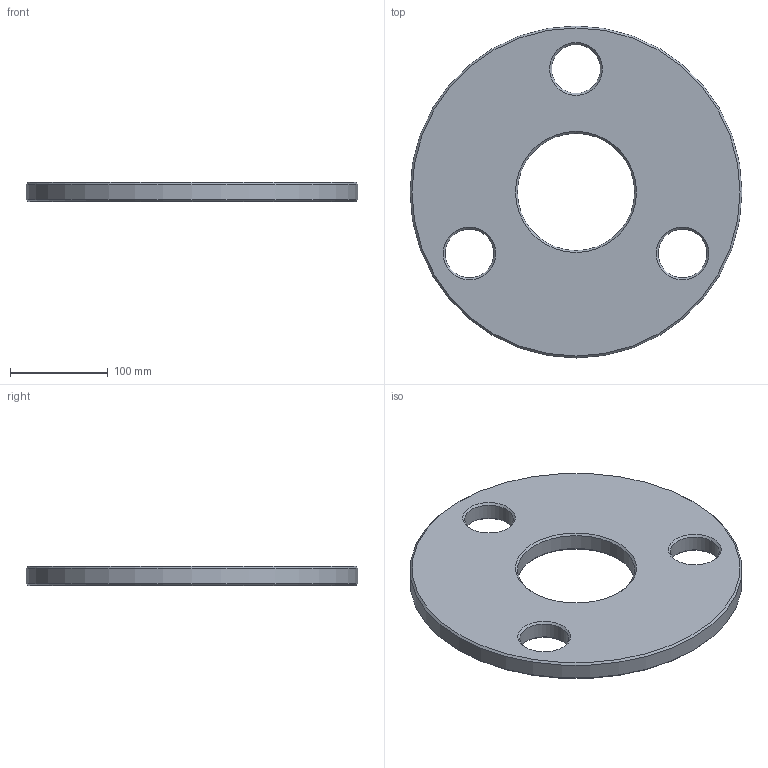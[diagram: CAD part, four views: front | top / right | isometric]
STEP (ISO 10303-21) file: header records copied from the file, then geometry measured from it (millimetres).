
FILE_DESCRIPTION(/* description */ (''),/* implementation_level */ '2;1');
FILE_NAME(/* name */ 'C:\Users\jbart\OneDrive\Plocha\Nová složka\3D modely - stp\Unášeč B-1.stp',/* time_stamp */ '2025-05-15T16:52:08+02:00',/* author */ ('jbart'),/* organization */ (''),/* preprocessor_version */ 'ST-DEVELOPER v18.1',/* originating_system */ 'Autodesk Inventor 2022',/* authorisation */ '');
FILE_SCHEMA (('AUTOMOTIVE_DESIGN { 1 0 10303 214 3 1 1 }'));
Length unit declared in the file: millimetre
Products named in the file (1): Unášeč B-1
Bounding box: 340 x 340 x 20 mm (x, y, z)
Volume: 1464120.4 mm3; surface area: 181051.9 mm2
Topology: 1 solids, 1 shells, 17 faces, 37 edges, 22 vertices
Faces by surface type: cone 10, cylinder 5, plane 2
Full cylindrical faces by diameter (mm): 50 x3, 120 x1, 340 x1
Entity records: 524 total; most frequent: DIRECTION 95, CARTESIAN_POINT 77, ORIENTED_EDGE 74, AXIS2_PLACEMENT_3D 40, EDGE_CURVE 37, EDGE_LOOP 25, CIRCLE 22, VERTEX_POINT 22
